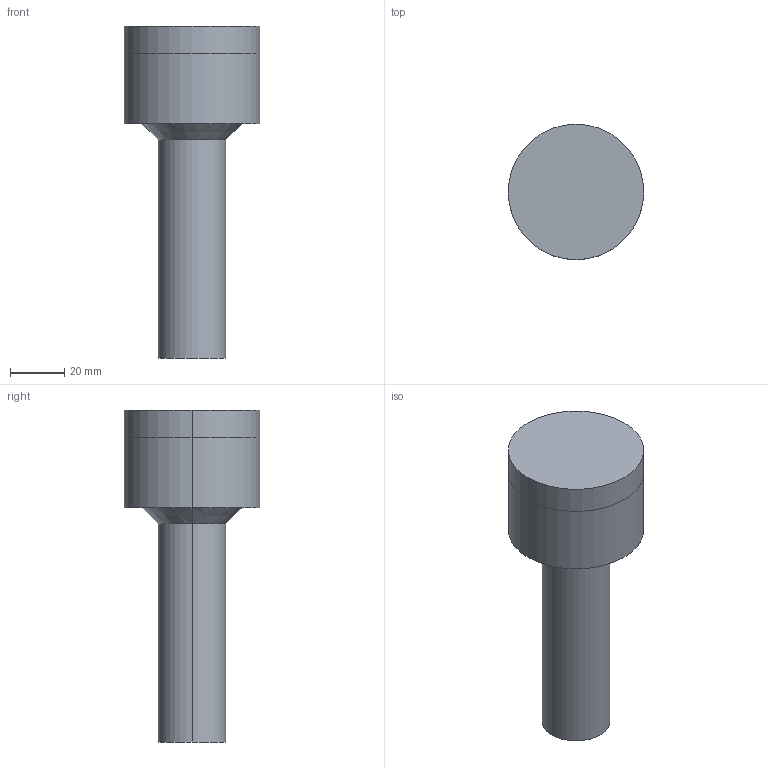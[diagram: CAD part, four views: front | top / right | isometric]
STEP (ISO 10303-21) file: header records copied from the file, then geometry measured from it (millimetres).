
FILE_DESCRIPTION (( 'STEP AP214' ), '1' );
FILE_NAME ('BruyRubio_B4_112,5.STEP', '2020-01-14T10:19:30', ( '' ), ( '' ), 'SwSTEP 2.0', 'SolidWorks 2017', '' );
FILE_SCHEMA (( 'AUTOMOTIVE_DESIGN' ));
Length unit declared in the file: millimetre
Products named in the file (3): BruyRubio_B4_112,5; Einbauraum_40c571; B4 112,5_756e6d
Assembly tree (2 placements, depth 2):
  BruyRubio_B4_112,5
    Einbauraum_40c571
    B4 112,5_756e6d
Bounding box: 50 x 50 x 122.5 mm (x, y, z)
Volume: 204095.4 mm3; surface area: 33123 mm2
Topology: 2 solids, 2 shells, 23 faces, 44 edges, 26 vertices
Faces by surface type: cylinder 8, cone 6, plane 5, torus 2, sphere 2
Entity records: 955 total; most frequent: DIRECTION 130, CARTESIAN_POINT 98, ORIENTED_EDGE 88, AXIS2_PLACEMENT_3D 58, EDGE_CURVE 44, UNCERTAINTY_MEASURE_WITH_UNIT 30, CIRCLE 30, SURFACE_STYLE_USAGE 27
